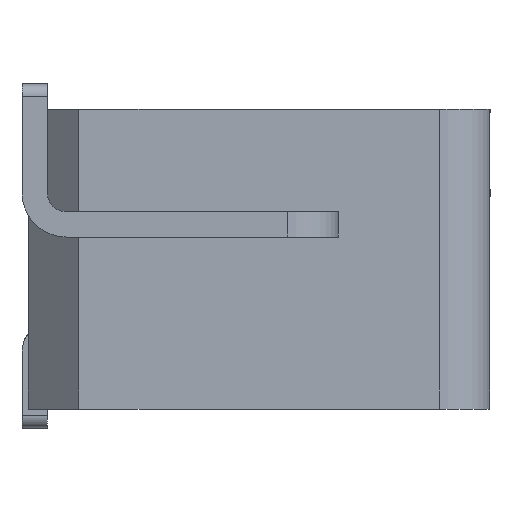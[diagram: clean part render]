
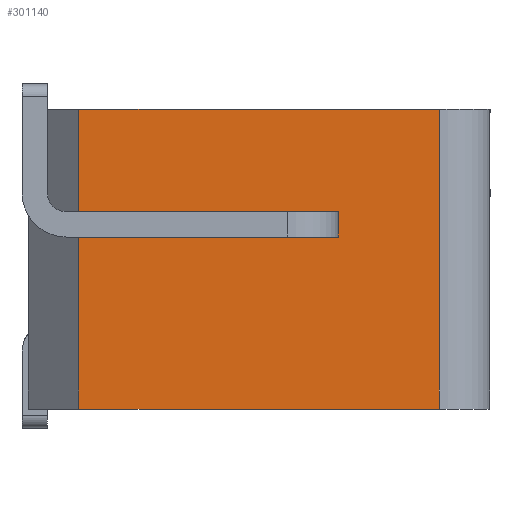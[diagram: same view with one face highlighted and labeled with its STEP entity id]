
A CAD part, left-side view. The second image highlights one B-rep face of the part: STEP entity #301140.
In plain terms, the highlighted planar face has unit normal (-1, 0, 0) as drawn and (1, 0, 0) by its records, which use the part's own axes.
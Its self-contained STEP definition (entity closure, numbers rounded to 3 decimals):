
#47640=CARTESIAN_POINT('',(4.583,-66.546,1.97)
);
#47650=VERTEX_POINT('',#47640);
#47680=CARTESIAN_POINT('',(4.583,-69.396,
1.97));
#47690=DIRECTION('',(0.,1.,0.));
#47700=VECTOR('',#47690,1.);
#47710=LINE('',#47680,#47700);
#47720=CARTESIAN_POINT('',(4.583,-69.396,1.97)
);
#47730=VERTEX_POINT('',#47720);
#47740=EDGE_CURVE('',#47730,#47650,#47710,.T.);
#50150=CARTESIAN_POINT('',(4.583,-69.396,
-0.4));
#50160=VERTEX_POINT('',#50150);
#50190=CARTESIAN_POINT('',(4.583,-66.546,
-0.4));
#50200=DIRECTION('',(0.,-1.,0.));
#50210=VECTOR('',#50200,1.);
#50220=LINE('',#50190,#50210);
#50230=CARTESIAN_POINT('',(4.583,-66.546,
-0.4));
#50240=VERTEX_POINT('',#50230);
#50250=EDGE_CURVE('',#50240,#50160,#50220,.T.);
#300540=CARTESIAN_POINT('',(4.583,-69.396,1.97
));
#300550=DIRECTION('',(0.,0.,-1.));
#300560=VECTOR('',#300550,1.);
#300570=LINE('',#300540,#300560);
#300580=EDGE_CURVE('',#47730,#50160,#300570,.T.);
#300640=CARTESIAN_POINT('',(4.583,-69.646,1.97));
#300650=DIRECTION('',(-1.,0.,0.));
#300660=DIRECTION('',(0.,1.,0.));
#300670=AXIS2_PLACEMENT_3D('',#300640,#300650,#300660);
#300680=PLANE('',#300670);
#300690=ORIENTED_EDGE('',*,*,#300580,.T.);
#300700=ORIENTED_EDGE('',*,*,#47740,.F.);
#300710=CARTESIAN_POINT('',(4.583,-66.546,1.97));
#300720=DIRECTION('',(0.,0.,-1.));
#300730=VECTOR('',#300720,1.);
#300740=LINE('',#300710,#300730);
#300750=EDGE_CURVE('',#47650,#50240,#300740,.T.);
#300760=ORIENTED_EDGE('',*,*,#300750,.F.);
#300770=ORIENTED_EDGE('',*,*,#50250,.F.);
#300780=EDGE_LOOP('',(#300770,#300760,#300700,#300690));
#300790=FACE_OUTER_BOUND('',#300780,.T.);
#300800=CARTESIAN_POINT('',(4.583,-67.346,
0.96));
#300810=DIRECTION('',(0.,0.,1.));
#300820=VECTOR('',#300810,1.);
#300830=LINE('',#300800,#300820);
#300840=CARTESIAN_POINT('',(4.583,-67.346,
0.96));
#300850=VERTEX_POINT('',#300840);
#300860=CARTESIAN_POINT('',(4.583,-67.346,
1.16));
#300870=VERTEX_POINT('',#300860);
#300880=EDGE_CURVE('',#300850,#300870,#300830,.T.);
#300890=ORIENTED_EDGE('',*,*,#300880,.F.);
#300900=CARTESIAN_POINT('',(4.583,-69.346,
1.16));
#300910=DIRECTION('',(0.,1.,0.));
#300920=VECTOR('',#300910,1.);
#300930=LINE('',#300900,#300920);
#300940=CARTESIAN_POINT('',(4.583,-69.346,
1.16));
#300950=VERTEX_POINT('',#300940);
#300960=EDGE_CURVE('',#300950,#300870,#300930,.T.);
#300970=ORIENTED_EDGE('',*,*,#300960,.T.);
#300980=CARTESIAN_POINT('',(4.583,-69.346,
1.16));
#300990=DIRECTION('',(0.,0.,-1.));
#301000=VECTOR('',#300990,1.);
#301010=LINE('',#300980,#301000);
#301020=CARTESIAN_POINT('',(4.583,-69.346,
0.96));
#301030=VERTEX_POINT('',#301020);
#301040=EDGE_CURVE('',#300950,#301030,#301010,.T.);
#301050=ORIENTED_EDGE('',*,*,#301040,.F.);
#301060=CARTESIAN_POINT('',(4.583,-67.346,
0.96));
#301070=DIRECTION('',(0.,-1.,0.));
#301080=VECTOR('',#301070,1.);
#301090=LINE('',#301060,#301080);
#301100=EDGE_CURVE('',#300850,#301030,#301090,.T.);
#301110=ORIENTED_EDGE('',*,*,#301100,.T.);
#301120=EDGE_LOOP('',(#301110,#301050,#300970,#300890));
#301130=FACE_BOUND('',#301120,.T.);
#301140=ADVANCED_FACE('',(#300790,#301130),#300680,.F.);
